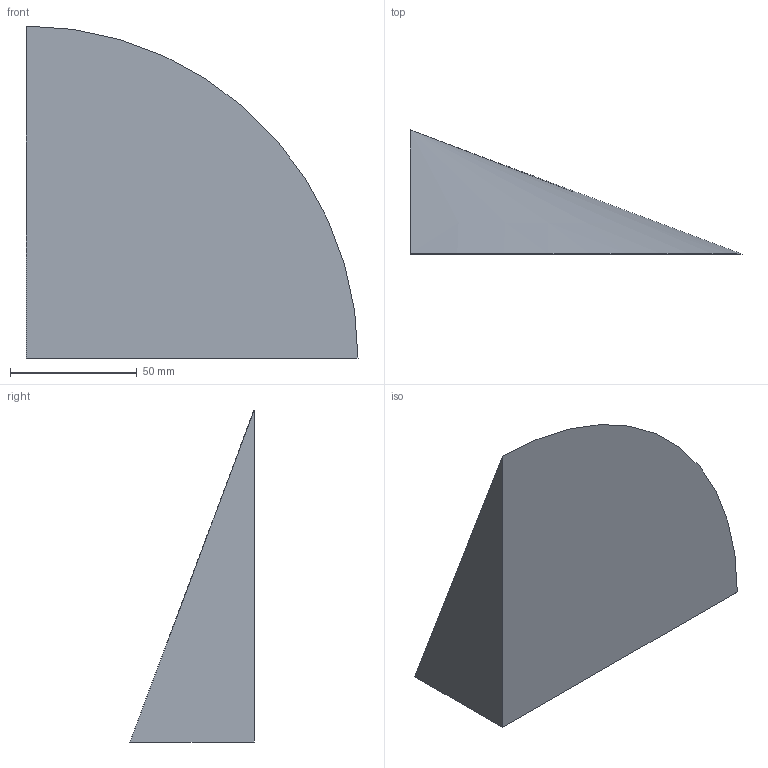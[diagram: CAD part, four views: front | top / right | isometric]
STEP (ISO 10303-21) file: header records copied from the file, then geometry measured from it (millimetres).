
FILE_DESCRIPTION(('CATIA V5 STEP Exchange'),'2;1');
FILE_NAME('C:\_Andres\UNIVERSIDAD\IQS\ASIGNATURAS\DAO\EXF\EXF-16172c\2inicio\Sanz_Alvarez_Ej07_v31.stp','2017-03-05T21:18:15+00:00',('none'),('none'),'CATIA Version 5-6 Release 2014 SP1 HF18','CATIA V5 STEP AP203','none');
FILE_SCHEMA(('CONFIG_CONTROL_DESIGN'));
Length unit declared in the file: millimetre
Products named in the file (1): Sanz_Alvarez_Ej07_v31
Bounding box: 131 x 49 x 131 mm (x, y, z)
Volume: 220144.2 mm3; surface area: 34287.5 mm2
Topology: 1 solids, 1 shells, 4 faces, 7 edges, 4 vertices
Faces by surface type: plane 3, cone 1
Entity records: 131 total; most frequent: CARTESIAN_POINT 15, DIRECTION 14, ORIENTED_EDGE 12, AXIS2_PLACEMENT_3D 6, EDGE_CURVE 6, VECTOR 5, LINE 5, ADVANCED_FACE 4
